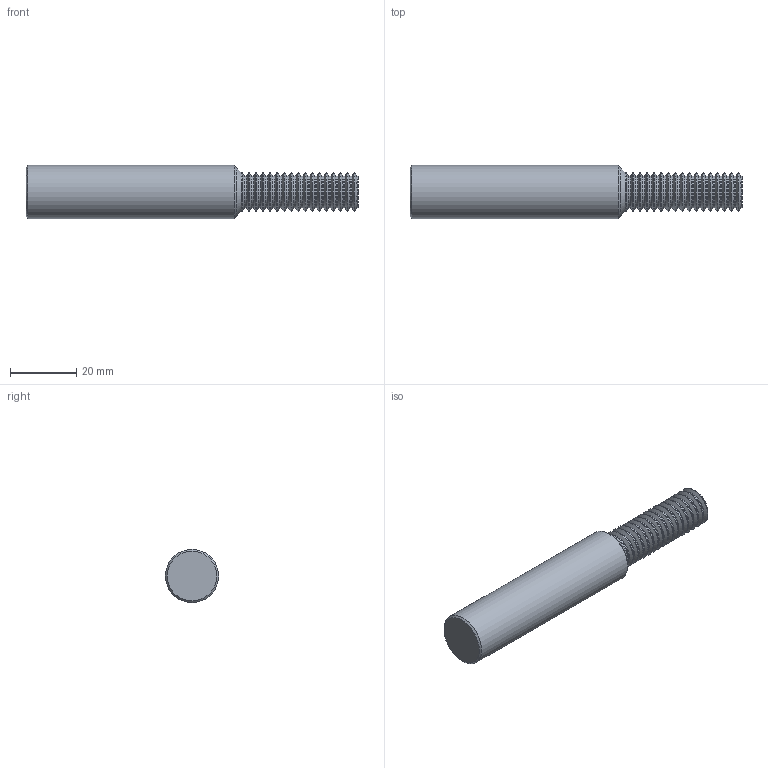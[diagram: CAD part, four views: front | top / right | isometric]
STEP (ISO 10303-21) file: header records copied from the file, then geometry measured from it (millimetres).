
FILE_DESCRIPTION(/* description */ (''),/* implementation_level */ '2;1');
FILE_NAME(/* name */ '00036545-TDM',/* time_stamp */ '2024-02-20T14:24:38+01:00',/* author */ (''),/* organization */ (''),/* preprocessor_version */ 'ST-DEVELOPER v16.5',/* originating_system */ 'HiCAD 2017 2201.0 Build 268',/* authorisation */ '');
FILE_SCHEMA (('AUTOMOTIVE_DESIGN { 1 0 10303 214 1 1 1 1 }'));
Length unit declared in the file: millimetre
Products named in the file (3): Root; ROTATIONSTEIL_1
Assembly tree (2 placements, depth 3):
  Root
    ROTATIONSTEIL_1
      ROTATIONSTEIL_1
Bounding box: 100 x 16 x 16 mm (x, y, z)
Volume: 15909.6 mm3; surface area: 5722.2 mm2
Topology: 2 solids, 2 shells, 108 faces, 213 edges, 109 vertices
Faces by surface type: cone 36, cylinder 35, torus 33, plane 4
Full cylindrical faces by diameter (mm): 9.536 x17, 11.8 x17, 16 x1
Entity records: 3264 total; most frequent: DIRECTION 436, CARTESIAN_POINT 324, AXIS2_PLACEMENT_3D 218, PRESENTATION_STYLE_ASSIGNMENT 214, COLOUR_RGB 214, DRAUGHTING_PRE_DEFINED_CURVE_FONT 212, CURVE_STYLE 212, OVER_RIDING_STYLED_ITEM 212
